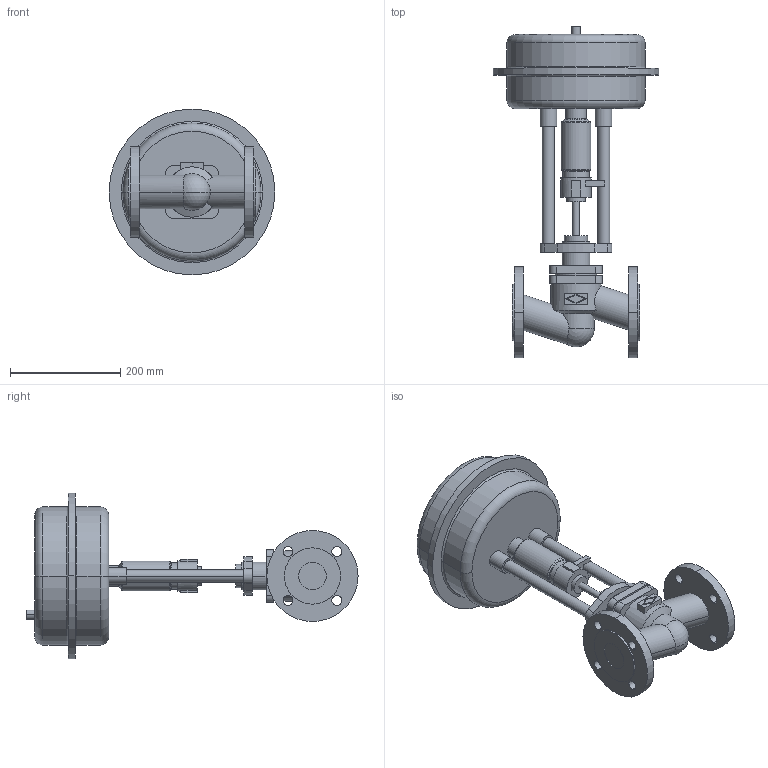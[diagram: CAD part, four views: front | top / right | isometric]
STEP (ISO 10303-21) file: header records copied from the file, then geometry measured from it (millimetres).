
FILE_DESCRIPTION(('OneSpaceDesigner STEP Export'),'2;1');
FILE_NAME('c000001488.stp','2005-02-15T 9:32:42',(''),(''),'OneSpace Designer STEP processor (Jan. 2003) for AP203(Solid Model)','OneSpace Designer 12.01D 09-Jul-2004 (C) CoCreate Software GmbH','');
FILE_SCHEMA(('CONFIG_CONTROL_DESIGN'));
Length unit declared in the file: millimetre
Products named in the file (2): 1; 2
Bounding box: 300 x 601.1 x 300 mm (x, y, z)
Volume: 9415480.9 mm3; surface area: 511033.2 mm2
Topology: 2 solids, 2 shells, 181 faces, 438 edges, 286 vertices
Faces by surface type: cylinder 84, plane 73, torus 16, cone 6, sphere 2
Entity records: 5115 total; most frequent: CARTESIAN_POINT 1046, ORIENTED_EDGE 872, DIRECTION 727, EDGE_CURVE 436, VERTEX_POINT 286, AXIS2_PLACEMENT_3D 264, EDGE_LOOP 224, VECTOR 199
